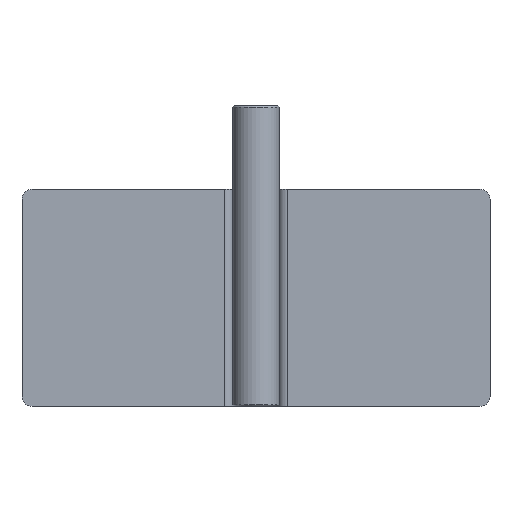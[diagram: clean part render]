
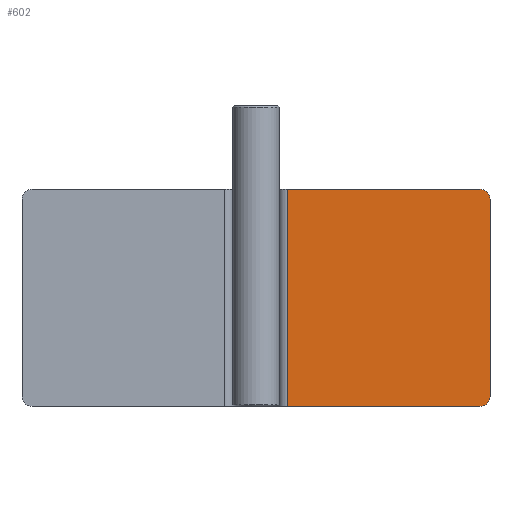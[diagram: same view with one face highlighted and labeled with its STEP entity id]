
A CAD part, left-side view. The second image highlights one B-rep face of the part: STEP entity #602.
In plain terms, the highlighted planar face has unit normal (-1, 0, 0).
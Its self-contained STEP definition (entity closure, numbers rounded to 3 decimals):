
#30=PLANE('',#674);
#47=FACE_OUTER_BOUND('',#78,.T.);
#78=EDGE_LOOP('',(#419,#420,#421,#422,#423,#424));
#112=LINE('',#929,#155);
#120=LINE('',#961,#163);
#124=LINE('',#979,#167);
#125=LINE('',#981,#168);
#155=VECTOR('',#741,10.);
#163=VECTOR('',#771,10.);
#167=VECTOR('',#789,10.);
#168=VECTOR('',#792,10.);
#210=CIRCLE('',#673,3.);
#211=CIRCLE('',#675,3.);
#241=VERTEX_POINT('',#926);
#242=VERTEX_POINT('',#928);
#254=VERTEX_POINT('',#958);
#255=VERTEX_POINT('',#960);
#261=VERTEX_POINT('',#974);
#262=VERTEX_POINT('',#978);
#300=EDGE_CURVE('',#242,#241,#112,.T.);
#316=EDGE_CURVE('',#254,#255,#120,.T.);
#324=EDGE_CURVE('',#261,#241,#210,.T.);
#325=EDGE_CURVE('',#261,#262,#124,.T.);
#326=EDGE_CURVE('',#255,#262,#211,.T.);
#327=EDGE_CURVE('',#242,#254,#125,.T.);
#419=ORIENTED_EDGE('',*,*,#324,.F.);
#420=ORIENTED_EDGE('',*,*,#325,.T.);
#421=ORIENTED_EDGE('',*,*,#326,.F.);
#422=ORIENTED_EDGE('',*,*,#316,.F.);
#423=ORIENTED_EDGE('',*,*,#327,.F.);
#424=ORIENTED_EDGE('',*,*,#300,.T.);
#602=ADVANCED_FACE('',(#47),#30,.T.);
#673=AXIS2_PLACEMENT_3D('',#976,#785,#786);
#674=AXIS2_PLACEMENT_3D('',#977,#787,#788);
#675=AXIS2_PLACEMENT_3D('',#980,#790,#791);
#741=DIRECTION('',(0.,-1.,0.));
#771=DIRECTION('',(0.,-1.,0.));
#785=DIRECTION('center_axis',(1.,0.,0.));
#786=DIRECTION('ref_axis',(0.,-0.707,-0.707));
#787=DIRECTION('center_axis',(-1.,0.,0.));
#788=DIRECTION('ref_axis',(0.,-1.,0.));
#789=DIRECTION('',(0.,0.,1.));
#790=DIRECTION('center_axis',(1.,0.,0.));
#791=DIRECTION('ref_axis',(0.,-0.707,0.707));
#792=DIRECTION('',(0.,0.,1.));
#926=CARTESIAN_POINT('',(0.,-67.,-75.));
#928=CARTESIAN_POINT('',(0.,-9.539,-75.));
#929=CARTESIAN_POINT('',(0.,-9.539,-75.));
#958=CARTESIAN_POINT('',(0.,-9.539,-10.));
#960=CARTESIAN_POINT('',(0.,-67.,-10.));
#961=CARTESIAN_POINT('',(0.,-9.539,-10.));
#974=CARTESIAN_POINT('',(0.,-70.,-72.));
#976=CARTESIAN_POINT('Origin',(0.,-67.,-72.));
#977=CARTESIAN_POINT('Origin',(0.,-9.539,-75.));
#978=CARTESIAN_POINT('',(0.,-70.,-13.));
#979=CARTESIAN_POINT('',(0.,-70.,-75.));
#980=CARTESIAN_POINT('Origin',(0.,-67.,-13.));
#981=CARTESIAN_POINT('',(0.,-9.539,-75.));
